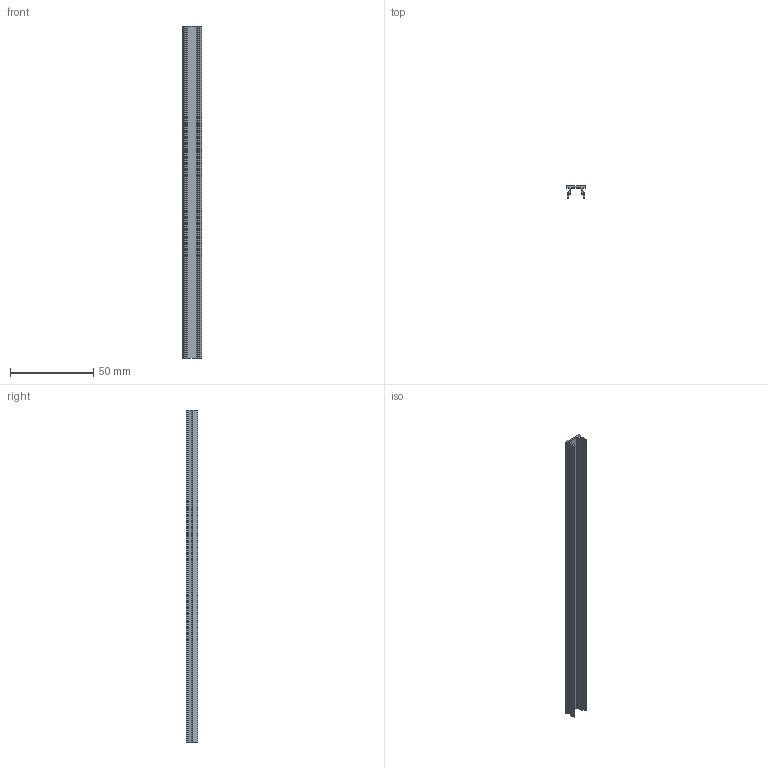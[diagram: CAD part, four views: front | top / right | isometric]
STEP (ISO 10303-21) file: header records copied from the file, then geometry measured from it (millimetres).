
FILE_DESCRIPTION(/* description */ (''),/* implementation_level */ '2;1');
FILE_NAME(/* name */ 'C:\Users\Owner\Documents\硯聰\Inv材料庫-3D新型錄-2019整理\06.AMF-\X2\98FE689D914D4EF6\X0\\8系列\AMF-08H.stp',/* time_stamp */ '2019-03-14T17:06:39+08:00',/* author */ ('Owner'),/* organization */ (''),/* preprocessor_version */ 'ST-DEVELOPER v16.1',/* originating_system */ 'Autodesk Inventor 2016',/* authorisation */ '');
FILE_SCHEMA (('AUTOMOTIVE_DESIGN { 1 0 10303 214 3 1 1 }'));
Length unit declared in the file: millimetre
Products named in the file (1): 零件235
Bounding box: 11.5 x 6.99 x 200 mm (x, y, z)
Volume: 5244.6 mm3; surface area: 9868.4 mm2
Topology: 1 solids, 1 shells, 38 faces, 108 edges, 72 vertices
Faces by surface type: plane 20, cylinder 18
Entity records: 1272 total; most frequent: DIRECTION 222, CARTESIAN_POINT 219, ORIENTED_EDGE 216, EDGE_CURVE 108, AXIS2_PLACEMENT_3D 75, LINE 72, VECTOR 72, VERTEX_POINT 72
